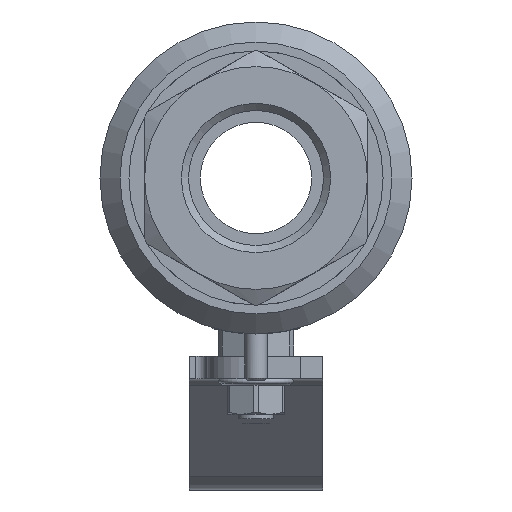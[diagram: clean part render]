
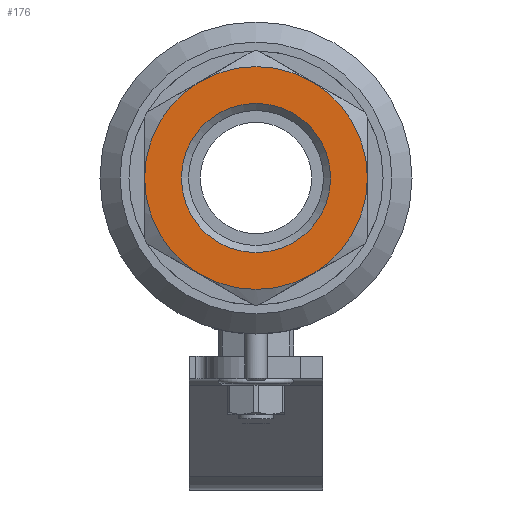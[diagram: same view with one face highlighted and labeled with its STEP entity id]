
A CAD part, left-side view. The second image highlights one B-rep face of the part: STEP entity #176.
In plain terms, the highlighted planar face has unit normal (-1, 0, 0).
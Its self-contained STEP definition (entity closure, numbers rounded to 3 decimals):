
#176=ADVANCED_FACE('',(#1354,#1356),#1358,.T.);
#1354=FACE_BOUND('',#1355,.T.);
#1355=EDGE_LOOP('',(#2303));
#1356=FACE_OUTER_BOUND('',#1357,.T.);
#1357=EDGE_LOOP('',(#2304,#2305,#2306,#2307,#2308,#2309));
#1358=PLANE('',#1359);
#1359=AXIS2_PLACEMENT_3D('',#1360,#1361,#1362);
#1360=CARTESIAN_POINT('',(-44.,0.,0.));
#1361=DIRECTION('',(-1.,0.,0.));
#1362=DIRECTION('',(0.,-0.866,-0.5));
#2303=ORIENTED_EDGE('',*,*,#3091,.T.);
#2304=ORIENTED_EDGE('',*,*,#3116,.F.);
#2305=ORIENTED_EDGE('',*,*,#3112,.F.);
#2306=ORIENTED_EDGE('',*,*,#3108,.F.);
#2307=ORIENTED_EDGE('',*,*,#3104,.F.);
#2308=ORIENTED_EDGE('',*,*,#3100,.F.);
#2309=ORIENTED_EDGE('',*,*,#3097,.F.);
#3091=EDGE_CURVE('',#3523,#3523,#3524,.T.);
#3097=EDGE_CURVE('',#3531,#3529,#3533,.T.);
#3100=EDGE_CURVE('',#3529,#3536,#3537,.T.);
#3104=EDGE_CURVE('',#3536,#3541,#3542,.T.);
#3108=EDGE_CURVE('',#3541,#3546,#3547,.T.);
#3112=EDGE_CURVE('',#3546,#3551,#3552,.T.);
#3116=EDGE_CURVE('',#3551,#3531,#3556,.T.);
#3523=VERTEX_POINT('',#5326);
#3524=CIRCLE('',#5327,16.746);
#3529=VERTEX_POINT('',#5342);
#3531=VERTEX_POINT('',#5366);
#3533=CIRCLE('',#5395,25.);
#3536=VERTEX_POINT('',#5430);
#3537=CIRCLE('',#5431,25.);
#3541=VERTEX_POINT('',#5489);
#3542=CIRCLE('',#5490,25.);
#3546=VERTEX_POINT('',#5548);
#3547=CIRCLE('',#5549,25.);
#3551=VERTEX_POINT('',#5607);
#3552=CIRCLE('',#5608,25.);
#3556=CIRCLE('',#5666,25.);
#5326=CARTESIAN_POINT('',(-44.,-14.502,-8.373));
#5327=AXIS2_PLACEMENT_3D('',#5328,#5329,#5330);
#5328=CARTESIAN_POINT('',(-44.,0.,0.));
#5329=DIRECTION('',(1.,0.,0.));
#5330=DIRECTION('',(0.,-0.866,-0.5));
#5342=CARTESIAN_POINT('',(-44.,-12.5,-21.651));
#5366=CARTESIAN_POINT('',(-44.,-25.,0.));
#5395=AXIS2_PLACEMENT_3D('',#5396,#5397,#5398);
#5396=CARTESIAN_POINT('',(-44.,0.,0.));
#5397=DIRECTION('',(1.,0.,0.));
#5398=DIRECTION('',(0.,-1.,0.));
#5430=CARTESIAN_POINT('',(-44.,12.5,-21.651));
#5431=AXIS2_PLACEMENT_3D('',#5432,#5433,#5434);
#5432=CARTESIAN_POINT('',(-44.,0.,0.));
#5433=DIRECTION('',(1.,0.,0.));
#5434=DIRECTION('',(0.,-0.5,-0.866));
#5489=CARTESIAN_POINT('',(-44.,25.,0.));
#5490=AXIS2_PLACEMENT_3D('',#5491,#5492,#5493);
#5491=CARTESIAN_POINT('',(-44.,0.,0.));
#5492=DIRECTION('',(1.,0.,0.));
#5493=DIRECTION('',(0.,0.5,-0.866));
#5548=CARTESIAN_POINT('',(-44.,12.5,21.651));
#5549=AXIS2_PLACEMENT_3D('',#5550,#5551,#5552);
#5550=CARTESIAN_POINT('',(-44.,0.,0.));
#5551=DIRECTION('',(1.,0.,0.));
#5552=DIRECTION('',(0.,1.,0.));
#5607=CARTESIAN_POINT('',(-44.,-12.5,21.651));
#5608=AXIS2_PLACEMENT_3D('',#5609,#5610,#5611);
#5609=CARTESIAN_POINT('',(-44.,0.,0.));
#5610=DIRECTION('',(1.,0.,0.));
#5611=DIRECTION('',(0.,0.5,0.866));
#5666=AXIS2_PLACEMENT_3D('',#5667,#5668,#5669);
#5667=CARTESIAN_POINT('',(-44.,0.,0.));
#5668=DIRECTION('',(1.,0.,0.));
#5669=DIRECTION('',(0.,-0.5,0.866));
